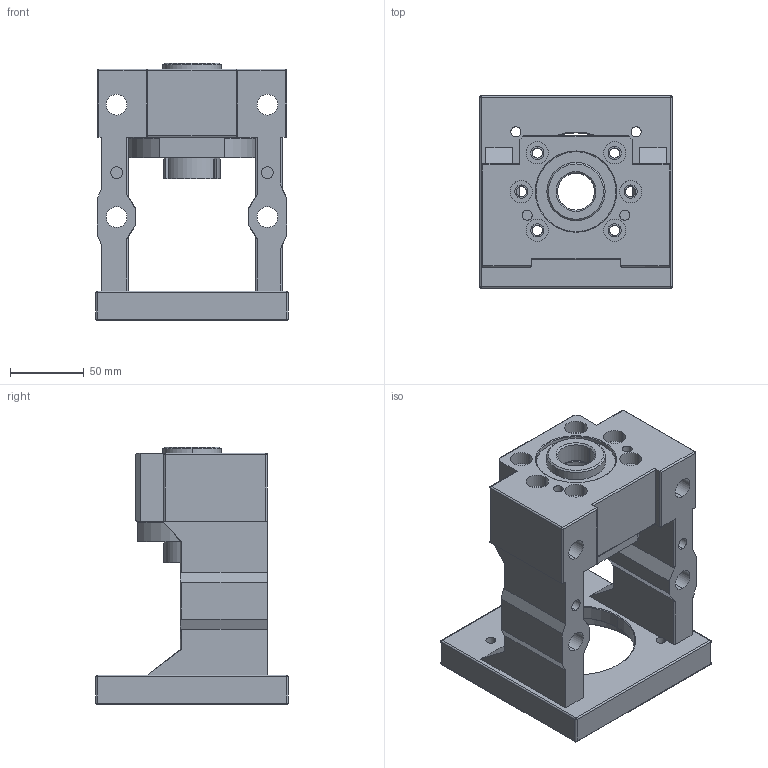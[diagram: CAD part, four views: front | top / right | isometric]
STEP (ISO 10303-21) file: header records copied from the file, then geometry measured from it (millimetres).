
FILE_DESCRIPTION((''),'2;1');
FILE_NAME('M100Y-SBK25-C_____________ASM_A_ASM','2020-07-22T',('Administrator'),(''),'PRO/ENGINEER BY PARAMETRIC TECHNOLOGY CORPORATION, 2010280','PRO/ENGINEER BY PARAMETRIC TECHNOLOGY CORPORATION, 2010280','');
FILE_SCHEMA(('CONFIG_CONTROL_DESIGN'));
Length unit declared in the file: millimetre
Products named in the file (5): PRT0001; M100Y-SBK25-C-03_______; M100Y-SBK25-C-02_______; NFM25X1_5________; M100Y-SBK25-C_____________ASM_A_ASM
Assembly tree (5 placements, depth 2):
  M100Y-SBK25-C_____________ASM_A_ASM
    PRT0001
    M100Y-SBK25-C-03_______  x2
    M100Y-SBK25-C-02_______
    NFM25X1_5________
Bounding box: 130 x 130 x 174 mm (x, y, z)
Volume: 910517.2 mm3; surface area: 163903.7 mm2
Topology: 5 solids, 6 shells, 291 faces, 726 edges, 452 vertices
Faces by surface type: cylinder 152, plane 90, cone 31, sphere 12, torus 4, extrusion 2
Entity records: 8748 total; most frequent: CARTESIAN_POINT 1786, DIRECTION 1490, ORIENTED_EDGE 1372, EDGE_CURVE 686, AXIS2_PLACEMENT_3D 569, VERTEX_POINT 436, VECTOR 352, LINE 350
